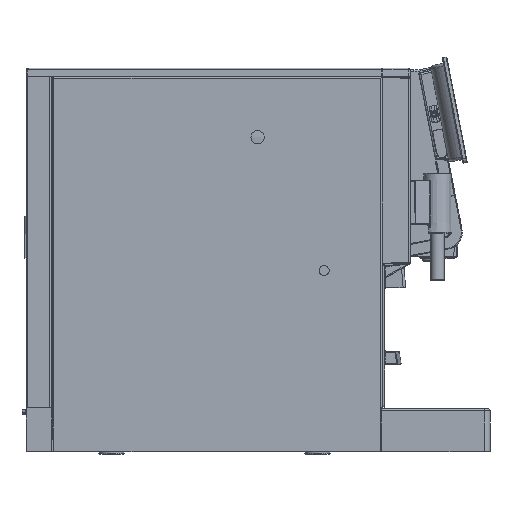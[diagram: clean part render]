
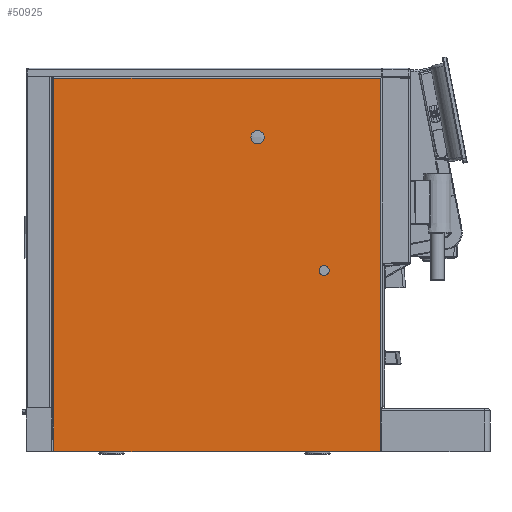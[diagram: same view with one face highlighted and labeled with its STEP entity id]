
A CAD part, left-side view. The second image highlights one B-rep face of the part: STEP entity #50925.
In plain terms, the highlighted planar face has unit normal (-1, 0, 0).
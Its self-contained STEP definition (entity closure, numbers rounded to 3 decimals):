
#371=FACE_BOUND('',#15530,.T.);
#372=FACE_BOUND('',#15531,.T.);
#697=PLANE('',#54441);
#2061=LINE('',#78301,#5976);
#2211=LINE('',#78675,#6126);
#2212=LINE('',#78676,#6127);
#2213=LINE('',#78678,#6128);
#2214=LINE('',#78680,#6129);
#2215=LINE('',#78681,#6130);
#5976=VECTOR('',#61132,10.);
#6126=VECTOR('',#61520,10.);
#6127=VECTOR('',#61521,10.);
#6128=VECTOR('',#61522,10.);
#6129=VECTOR('',#61523,10.);
#6130=VECTOR('',#61524,10.);
#12324=FACE_OUTER_BOUND('',#15529,.T.);
#15529=EDGE_LOOP('',(#35840,#35841,#35842,#35843,#35844,#35845));
#15530=EDGE_LOOP('',(#35846));
#15531=EDGE_LOOP('',(#35847));
#19431=CIRCLE('',#54442,6.);
#19432=CIRCLE('',#54443,8.);
#21670=VERTEX_POINT('',#78298);
#21671=VERTEX_POINT('',#78300);
#21757=VERTEX_POINT('',#78673);
#21758=VERTEX_POINT('',#78674);
#21759=VERTEX_POINT('',#78677);
#21760=VERTEX_POINT('',#78679);
#21761=VERTEX_POINT('',#78682);
#21762=VERTEX_POINT('',#78684);
#26821=EDGE_CURVE('',#21671,#21670,#2061,.T.);
#26992=EDGE_CURVE('',#21757,#21758,#2211,.T.);
#26993=EDGE_CURVE('',#21757,#21671,#2212,.T.);
#26994=EDGE_CURVE('',#21670,#21759,#2213,.T.);
#26995=EDGE_CURVE('',#21759,#21760,#2214,.T.);
#26996=EDGE_CURVE('',#21758,#21760,#2215,.T.);
#26997=EDGE_CURVE('',#21761,#21761,#19431,.T.);
#26998=EDGE_CURVE('',#21762,#21762,#19432,.T.);
#35840=ORIENTED_EDGE('',*,*,#26992,.F.);
#35841=ORIENTED_EDGE('',*,*,#26993,.T.);
#35842=ORIENTED_EDGE('',*,*,#26821,.T.);
#35843=ORIENTED_EDGE('',*,*,#26994,.T.);
#35844=ORIENTED_EDGE('',*,*,#26995,.T.);
#35845=ORIENTED_EDGE('',*,*,#26996,.F.);
#35846=ORIENTED_EDGE('',*,*,#26997,.T.);
#35847=ORIENTED_EDGE('',*,*,#26998,.T.);
#50925=ADVANCED_FACE('',(#12324,#371,#372),#697,.F.);
#54441=AXIS2_PLACEMENT_3D('',#78672,#61518,#61519);
#54442=AXIS2_PLACEMENT_3D('',#78683,#61525,#61526);
#54443=AXIS2_PLACEMENT_3D('',#78685,#61527,#61528);
#61132=DIRECTION('',(0.,-1.,0.));
#61518=DIRECTION('center_axis',(1.,0.,0.));
#61519=DIRECTION('ref_axis',(0.,0.,-1.));
#61520=DIRECTION('',(0.,0.,1.));
#61521=DIRECTION('',(0.,0.,-1.));
#61522=DIRECTION('',(0.,0.,1.));
#61523=DIRECTION('',(0.,0.,1.));
#61524=DIRECTION('',(0.,-1.,0.));
#61525=DIRECTION('center_axis',(1.,0.,0.));
#61526=DIRECTION('ref_axis',(0.,0.,1.));
#61527=DIRECTION('center_axis',(1.,0.,0.));
#61528=DIRECTION('ref_axis',(0.,1.,0.));
#78298=CARTESIAN_POINT('',(-162.5,130.,4.));
#78300=CARTESIAN_POINT('',(-162.5,518.6,4.));
#78301=CARTESIAN_POINT('',(-162.5,0.,4.));
#78672=CARTESIAN_POINT('Origin',(-162.5,275.7,238.55));
#78673=CARTESIAN_POINT('',(-162.5,518.6,18.9));
#78674=CARTESIAN_POINT('',(-162.5,518.6,448.));
#78675=CARTESIAN_POINT('',(-162.5,518.6,343.775));
#78676=CARTESIAN_POINT('',(-162.5,518.6,128.725));
#78677=CARTESIAN_POINT('',(-162.5,130.,56.4));
#78678=CARTESIAN_POINT('',(-162.5,130.,121.275));
#78679=CARTESIAN_POINT('',(-162.5,130.,448.));
#78680=CARTESIAN_POINT('',(-162.5,130.,449.));
#78681=CARTESIAN_POINT('',(-162.5,129.,448.));
#78682=CARTESIAN_POINT('',(-162.5,197.2,213.2));
#78683=CARTESIAN_POINT('Origin',(-162.5,197.2,219.2));
#78684=CARTESIAN_POINT('',(-162.5,268.26,377.732));
#78685=CARTESIAN_POINT('Origin',(-162.5,276.26,377.732));
